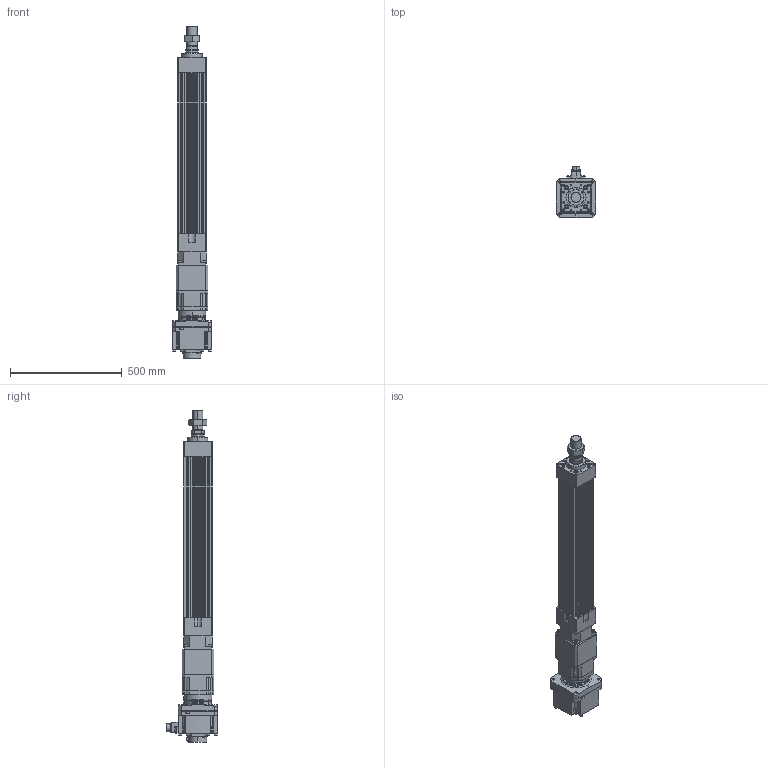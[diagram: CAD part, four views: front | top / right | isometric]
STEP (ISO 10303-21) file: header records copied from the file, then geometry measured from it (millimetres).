
FILE_DESCRIPTION (( 'STEP AP203' ), '1' );
FILE_NAME ('HES130FS(HS)-S500-W020G00-M.STEP', '2023-01-30T11:52:31', ( 'tms' ), ( '' ), 'SwSTEP 2.0', 'SolidWorks 2013', '' );
FILE_SCHEMA (( 'CONFIG_CONTROL_DESIGN' ));
Length unit declared in the file: millimetre
Products named in the file (9): M45X1.5P; AB1421; AB142-003[HG-SR352]; HG-SR202; HES130 ROD M ST500; HES130FS(HS)-S500-W020G00-M; P0403500801; P1301500001; HES130-S500-G142
Assembly tree (8 placements, depth 3):
  HES130FS(HS)-S500-W020G00-M
    HES130-S500-G142
    HES130 ROD M ST500
    M45X1.5P
    AB142-003[HG-SR352]
      AB1421
      P1301500001
      P0403500801
    HG-SR202
Bounding box: 176 x 228.85 x 1487.5 mm (x, y, z)
Volume: 12943185.7 mm3; surface area: 1681420.7 mm2
Topology: 4 solids, 22 shells, 1527 faces, 3928 edges, 2530 vertices
Faces by surface type: cylinder 683, plane 580, cone 182, bspline 76, torus 6
Entity records: 55214 total; most frequent: CARTESIAN_POINT 16756, DIRECTION 8052, ORIENTED_EDGE 7718, EDGE_CURVE 3881, AXIS2_PLACEMENT_3D 3043, VERTEX_POINT 2530, LINE 1966, VECTOR 1966
